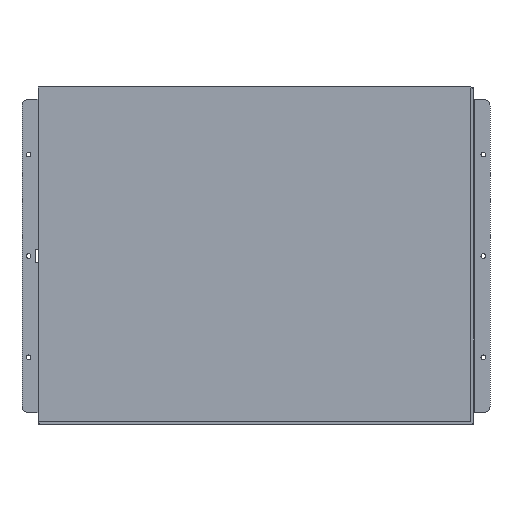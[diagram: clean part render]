
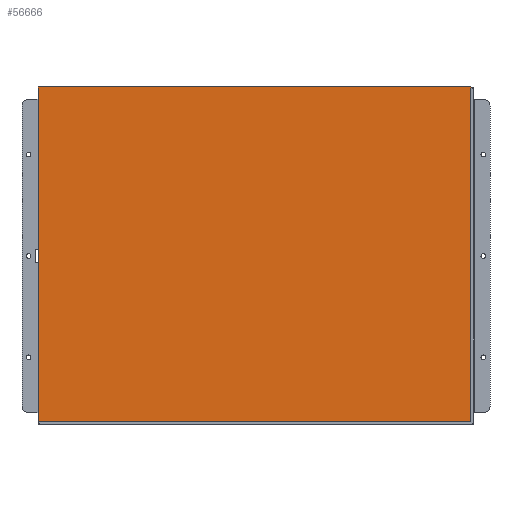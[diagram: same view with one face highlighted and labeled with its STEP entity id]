
A CAD part, front view. The second image highlights one B-rep face of the part: STEP entity #56666.
In plain terms, the highlighted planar face has unit normal (0, -1, 0) as drawn and (0, 0, 1) by its records, which use the part's own axes.
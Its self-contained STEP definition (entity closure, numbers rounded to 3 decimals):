
#56459=DIRECTION('',(1.,0.,0.));
#56460=VECTOR('',#56459,324.5);
#56461=CARTESIAN_POINT('',(-161.25,124.25,0.));
#56462=LINE('',#56461,#56460);
#56463=DIRECTION('',(0.,-1.,0.));
#56464=VECTOR('',#56463,251.);
#56465=CARTESIAN_POINT('',(163.25,124.25,0.));
#56466=LINE('',#56465,#56464);
#56467=DIRECTION('',(-1.,0.,0.));
#56468=VECTOR('',#56467,324.5);
#56469=CARTESIAN_POINT('',(163.25,-126.75,0.));
#56470=LINE('',#56469,#56468);
#56471=DIRECTION('',(0.,1.,0.));
#56472=VECTOR('',#56471,251.);
#56473=CARTESIAN_POINT('',(-161.25,-126.75,0.));
#56474=LINE('',#56473,#56472);
#56603=CARTESIAN_POINT('',(-161.25,124.25,0.));
#56604=CARTESIAN_POINT('',(163.25,124.25,0.));
#56605=VERTEX_POINT('',#56603);
#56606=VERTEX_POINT('',#56604);
#56607=CARTESIAN_POINT('',(163.25,-126.75,0.));
#56608=VERTEX_POINT('',#56607);
#56609=CARTESIAN_POINT('',(-161.25,-126.75,0.));
#56610=VERTEX_POINT('',#56609);
#56651=CARTESIAN_POINT('',(0.,0.,0.));
#56652=DIRECTION('',(0.,0.,1.));
#56653=DIRECTION('',(1.,0.,0.));
#56654=AXIS2_PLACEMENT_3D('',#56651,#56652,#56653);
#56655=PLANE('',#56654);
#56657=ORIENTED_EDGE('',*,*,#56656,.T.);
#56659=ORIENTED_EDGE('',*,*,#56658,.T.);
#56661=ORIENTED_EDGE('',*,*,#56660,.T.);
#56663=ORIENTED_EDGE('',*,*,#56662,.T.);
#56664=EDGE_LOOP('',(#56657,#56659,#56661,#56663));
#56665=FACE_OUTER_BOUND('',#56664,.F.);
#56656=EDGE_CURVE('',#56605,#56606,#56462,.T.);
#56658=EDGE_CURVE('',#56606,#56608,#56466,.T.);
#56660=EDGE_CURVE('',#56608,#56610,#56470,.T.);
#56662=EDGE_CURVE('',#56610,#56605,#56474,.T.);
#56666=ADVANCED_FACE('',(#56665),#56655,.T.);
